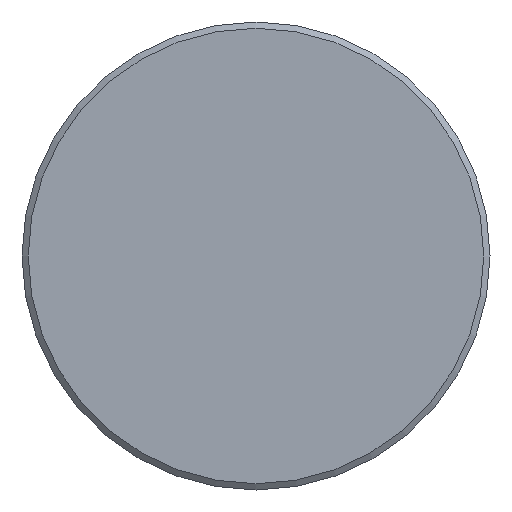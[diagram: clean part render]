
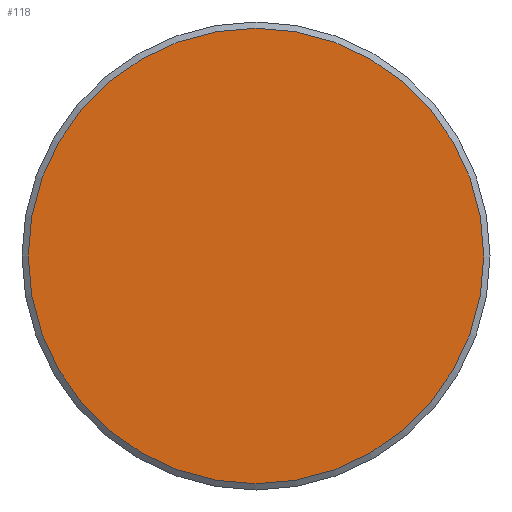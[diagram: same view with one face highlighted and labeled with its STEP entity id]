
A CAD part, front view. The second image highlights one B-rep face of the part: STEP entity #118.
In plain terms, the highlighted planar face has unit normal (0, -1, 0).
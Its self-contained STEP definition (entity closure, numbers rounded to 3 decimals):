
#29=FACE_OUTER_BOUND('',#39,.T.);
#39=EDGE_LOOP('',(#90));
#56=CIRCLE('',#137,14.6);
#67=VERTEX_POINT('',#200);
#78=EDGE_CURVE('',#67,#67,#56,.T.);
#90=ORIENTED_EDGE('',*,*,#78,.F.);
#114=PLANE('',#136);
#118=ADVANCED_FACE('',(#29),#114,.T.);
#136=AXIS2_PLACEMENT_3D('',#199,#158,#159);
#137=AXIS2_PLACEMENT_3D('',#201,#160,#161);
#158=DIRECTION('center_axis',(0.,-1.,0.));
#159=DIRECTION('ref_axis',(0.,0.,-1.));
#160=DIRECTION('center_axis',(0.,1.,0.));
#161=DIRECTION('ref_axis',(-1.,0.,0.));
#199=CARTESIAN_POINT('Origin',(-7.3,0.,0.));
#200=CARTESIAN_POINT('',(-14.6,0.,0.));
#201=CARTESIAN_POINT('Origin',(0.,0.,0.));
